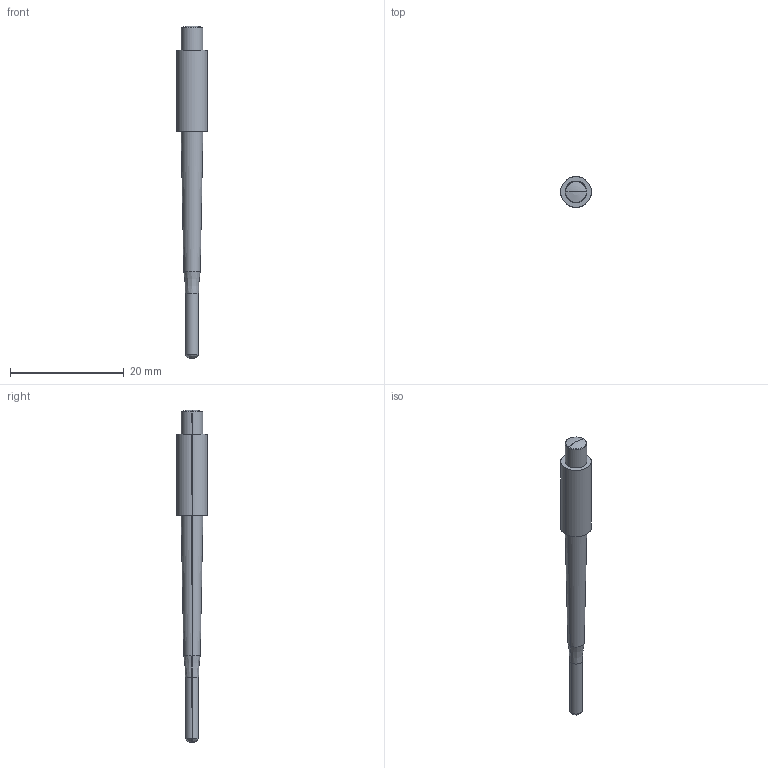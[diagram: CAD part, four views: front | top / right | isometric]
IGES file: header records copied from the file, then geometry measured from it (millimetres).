
Start section: SolidWorks IGES file using analytic representation for surfaces
Global section: file name: \\PSSILO\catalogs\CONTENTCENTRAL\FIRING PIN\Cache\961CC009-9153-47A0-AD29-99C3E376A331.IGS; native system: SolidWorks 2009; preprocessor: SolidWorks 2009; author: partstream; date: 090718.235817; units: inch
Bounding box: 5.44 x 5.44 x 58.45 mm (x, y, z)
Surface area: 700.7 mm2 (no closed solid volume)
Topology: 0 solids, 0 shells, 19 faces, 208 edges, 207 vertices
Faces by surface type: revolution 10, bspline 9
